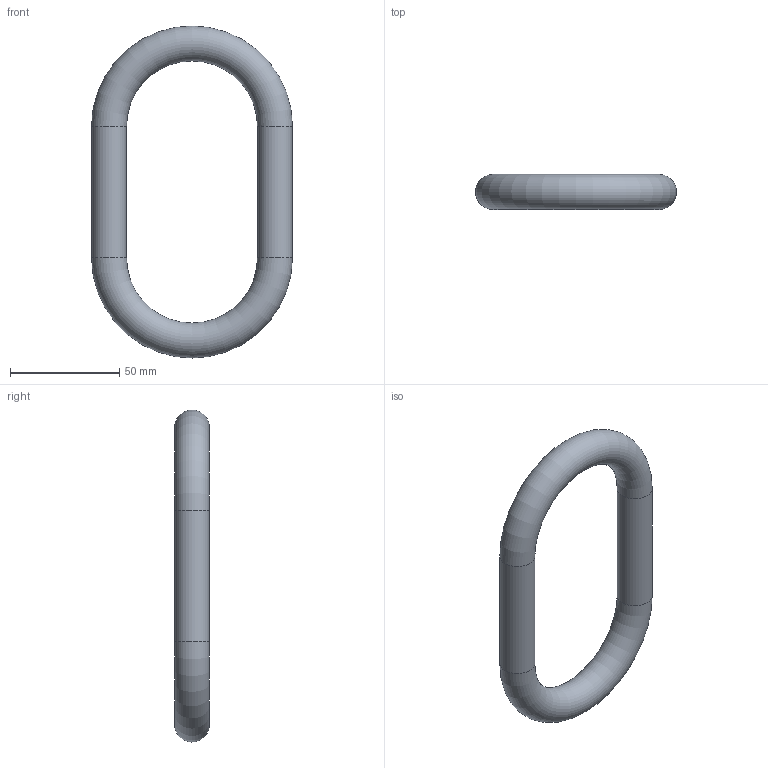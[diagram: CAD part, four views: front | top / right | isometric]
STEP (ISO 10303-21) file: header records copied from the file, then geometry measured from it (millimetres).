
FILE_DESCRIPTION(('Open CASCADE Model'),'2;1');
FILE_NAME('Open CASCADE Shape Model','2026-10-20T13:19:57',('Author'),( 'Open CASCADE'),'Open CASCADE STEP processor 7.9','Open CASCADE 7.9' ,'Unknown');
FILE_SCHEMA(('AUTOMOTIVE_DESIGN { 1 0 10303 214 1 1 1 1 }'));
Length unit declared in the file: millimetre
Products named in the file (1): Open CASCADE STEP translator 7.9 99
Bounding box: 92 x 16 x 152 mm (x, y, z)
Volume: 72133.2 mm3; surface area: 18033.3 mm2
Topology: 1 solids, 1 shells, 4 faces, 8 edges, 4 vertices
Faces by surface type: cylinder 2, torus 2
Full cylindrical faces by diameter (mm): 16 x2
Entity records: 216 total; most frequent: CARTESIAN_POINT 41, DIRECTION 32, ORIENTED_EDGE 16, PCURVE 16, DEFINITIONAL_REPRESENTATION 16, AXIS2_PLACEMENT_3D 11, LINE 10, VECTOR 10
